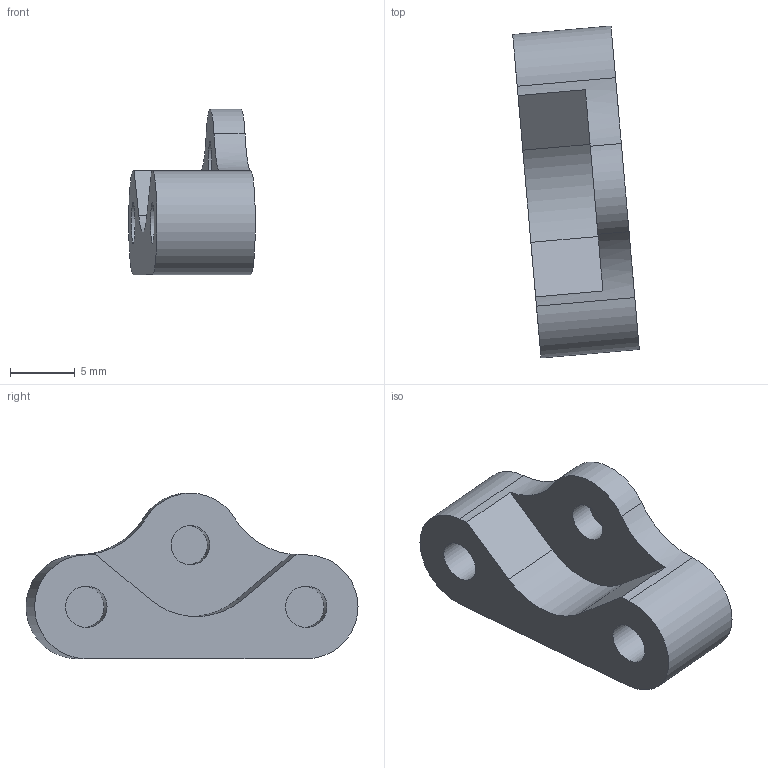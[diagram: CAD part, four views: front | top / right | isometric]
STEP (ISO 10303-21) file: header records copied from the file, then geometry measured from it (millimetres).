
FILE_DESCRIPTION(/* description */ (''),/* implementation_level */ '2;1');
FILE_NAME(/* name */ '4-36-2 Steering arm connector.step',/* time_stamp */ '2025-05-10T22:20:09+02:00',/* author */ (''),/* organization */ (''),/* preprocessor_version */ 'ST-DEVELOPER v20.1',/* originating_system */ 'Autodesk Translation Framework v14.4.0.0',/* authorisation */ '');
FILE_SCHEMA (('AUTOMOTIVE_DESIGN { 1 0 10303 214 3 1 1 }'));
Length unit declared in the file: millimetre
Products named in the file (1): Steering arm connector
Bounding box: 9.75 x 25.57 x 12.75 mm (x, y, z)
Volume: 970.4 mm3; surface area: 1117.8 mm2
Topology: 1 solids, 1 shells, 42 faces, 115 edges, 76 vertices
Faces by surface type: plane 31, cylinder 9, cone 2
Full cylindrical faces by diameter (mm): 3 x1, 3.2 x2
Entity records: 1369 total; most frequent: CARTESIAN_POINT 262, ORIENTED_EDGE 230, DIRECTION 219, EDGE_CURVE 115, VERTEX_POINT 76, AXIS2_PLACEMENT_3D 75, LINE 69, VECTOR 69
